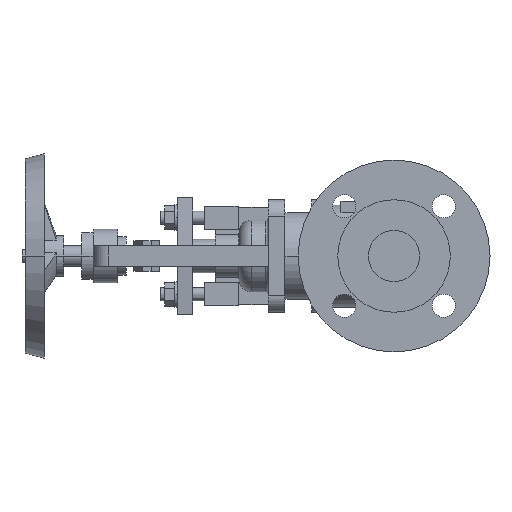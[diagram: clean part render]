
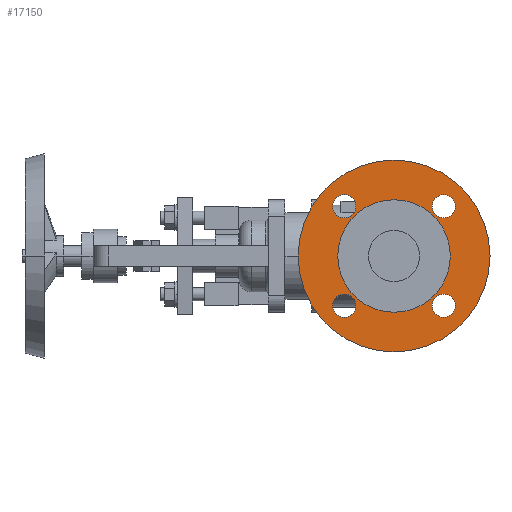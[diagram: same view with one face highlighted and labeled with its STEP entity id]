
A CAD part, left-side view. The second image highlights one B-rep face of the part: STEP entity #17150.
In plain terms, the highlighted planar face has unit normal (-1, 0, 0).
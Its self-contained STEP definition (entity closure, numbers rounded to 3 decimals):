
#8510=CARTESIAN_POINT('',(4.2,0.,75.));
#8520=VERTEX_POINT('',#8510);
#8550=CARTESIAN_POINT('',(4.2,0.,0.));
#8560=DIRECTION('',(1.,0.,0.));
#8570=DIRECTION('',(0.,0.,-1.));
#8580=AXIS2_PLACEMENT_3D('',#8550,#8560,#8570);
#8590=CIRCLE('',#8580,75.);
#8600=CARTESIAN_POINT('',(4.2,0.,-75.));
#8610=VERTEX_POINT('',#8600);
#8620=EDGE_CURVE('',#8610,#8520,#8590,.T.);
#9000=CARTESIAN_POINT('',(4.2,38.891,-29.891));
#9010=VERTEX_POINT('',#9000);
#9170=CARTESIAN_POINT('',(4.2,38.891,-47.891));
#9180=VERTEX_POINT('',#9170);
#9210=CARTESIAN_POINT('',(4.2,38.891,-38.891));
#9220=DIRECTION('',(-1.,0.,0.));
#9230=DIRECTION('',(0.,0.,-1.));
#9240=AXIS2_PLACEMENT_3D('',#9210,#9220,#9230);
#9250=CIRCLE('',#9240,9.);
#9260=EDGE_CURVE('',#9010,#9180,#9250,.T.);
#9490=CARTESIAN_POINT('',(4.2,-38.891,-47.891));
#9500=VERTEX_POINT('',#9490);
#9660=CARTESIAN_POINT('',(4.2,-38.891,-29.891));
#9670=VERTEX_POINT('',#9660);
#9700=CARTESIAN_POINT('',(4.2,-38.891,-38.891));
#9710=DIRECTION('',(-1.,0.,0.));
#9720=DIRECTION('',(0.,0.,-1.));
#9730=AXIS2_PLACEMENT_3D('',#9700,#9710,#9720);
#9740=CIRCLE('',#9730,9.);
#9750=EDGE_CURVE('',#9500,#9670,#9740,.T.);
#9980=CARTESIAN_POINT('',(4.2,38.891,47.891));
#9990=VERTEX_POINT('',#9980);
#10150=CARTESIAN_POINT('',(4.2,38.891,29.891));
#10160=VERTEX_POINT('',#10150);
#10190=CARTESIAN_POINT('',(4.2,38.891,38.891));
#10200=DIRECTION('',(-1.,0.,0.));
#10210=DIRECTION('',(0.,0.,-1.));
#10220=AXIS2_PLACEMENT_3D('',#10190,#10200,#10210);
#10230=CIRCLE('',#10220,9.);
#10240=EDGE_CURVE('',#9990,#10160,#10230,.T.);
#10470=CARTESIAN_POINT('',(4.2,-38.891,47.891));
#10480=VERTEX_POINT('',#10470);
#10640=CARTESIAN_POINT('',(4.2,-38.891,29.891));
#10650=VERTEX_POINT('',#10640);
#10680=CARTESIAN_POINT('',(4.2,-38.891,38.891));
#10690=DIRECTION('',(-1.,0.,0.));
#10700=DIRECTION('',(0.,0.,-1.));
#10710=AXIS2_PLACEMENT_3D('',#10680,#10690,#10700);
#10720=CIRCLE('',#10710,9.);
#10730=EDGE_CURVE('',#10480,#10650,#10720,.T.);
#10960=CARTESIAN_POINT('',(4.2,44.,0.));
#10970=VERTEX_POINT('',#10960);
#11130=CARTESIAN_POINT('',(4.2,-44.,0.));
#11140=VERTEX_POINT('',#11130);
#11170=CARTESIAN_POINT('',(4.2,0.,0.));
#11180=DIRECTION('',(-1.,0.,0.));
#11190=DIRECTION('',(0.,1.,0.));
#11200=AXIS2_PLACEMENT_3D('',#11170,#11180,#11190);
#11210=CIRCLE('',#11200,44.);
#11220=EDGE_CURVE('',#10970,#11140,#11210,.T.);
#16800=CARTESIAN_POINT('',(4.2,59.5,0.));
#16810=DIRECTION('',(1.,0.,0.));
#16820=DIRECTION('',(0.,-1.,0.));
#16830=AXIS2_PLACEMENT_3D('',#16800,#16810,#16820);
#16840=PLANE('',#16830);
#16850=EDGE_CURVE('',#11140,#10970,#11210,.T.);
#16860=ORIENTED_EDGE('',*,*,#16850,.F.);
#16870=ORIENTED_EDGE('',*,*,#11220,.F.);
#16880=EDGE_LOOP('',(#16870,#16860));
#16890=FACE_BOUND('',#16880,.T.);
#16900=ORIENTED_EDGE('',*,*,#8620,.F.);
#16910=EDGE_CURVE('',#8520,#8610,#8590,.T.);
#16920=ORIENTED_EDGE('',*,*,#16910,.F.);
#16930=EDGE_LOOP('',(#16920,#16900));
#16940=FACE_OUTER_BOUND('',#16930,.T.);
#16950=EDGE_CURVE('',#9180,#9010,#9250,.T.);
#16960=ORIENTED_EDGE('',*,*,#16950,.F.);
#16970=ORIENTED_EDGE('',*,*,#9260,.F.);
#16980=EDGE_LOOP('',(#16970,#16960));
#16990=FACE_BOUND('',#16980,.T.);
#17000=EDGE_CURVE('',#9670,#9500,#9740,.T.);
#17010=ORIENTED_EDGE('',*,*,#17000,.F.);
#17020=ORIENTED_EDGE('',*,*,#9750,.F.);
#17030=EDGE_LOOP('',(#17020,#17010));
#17040=FACE_BOUND('',#17030,.T.);
#17050=EDGE_CURVE('',#10160,#9990,#10230,.T.);
#17060=ORIENTED_EDGE('',*,*,#17050,.F.);
#17070=ORIENTED_EDGE('',*,*,#10240,.F.);
#17080=EDGE_LOOP('',(#17070,#17060));
#17090=FACE_BOUND('',#17080,.T.);
#17100=EDGE_CURVE('',#10650,#10480,#10720,.T.);
#17110=ORIENTED_EDGE('',*,*,#17100,.F.);
#17120=ORIENTED_EDGE('',*,*,#10730,.F.);
#17130=EDGE_LOOP('',(#17120,#17110));
#17140=FACE_BOUND('',#17130,.T.);
#17150=ADVANCED_FACE('',(#16890,#16940,#16990,#17040,#17090,#17140),
#16840,.F.);
